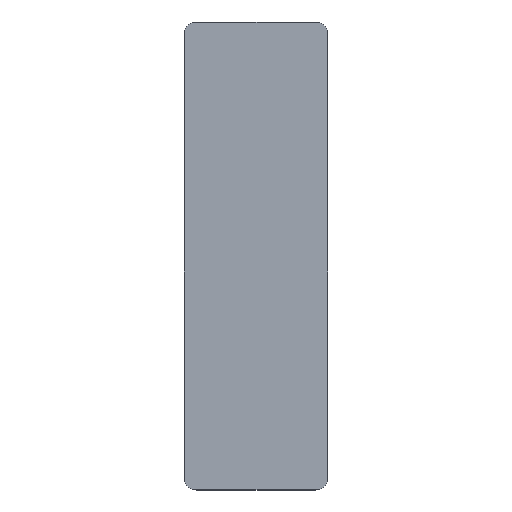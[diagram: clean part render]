
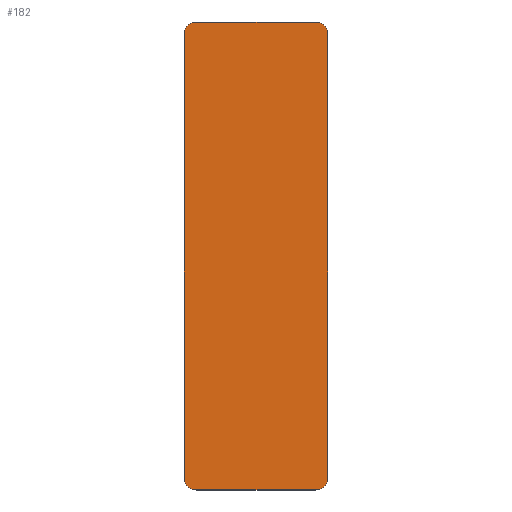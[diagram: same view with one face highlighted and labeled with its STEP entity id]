
A CAD part, top view. The second image highlights one B-rep face of the part: STEP entity #182.
In plain terms, the highlighted planar face has unit normal (0, 0, 1).
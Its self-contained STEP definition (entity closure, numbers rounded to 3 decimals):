
#16=CIRCLE('',#200,0.7);
#18=CIRCLE('',#204,0.7);
#20=CIRCLE('',#208,0.7);
#22=CIRCLE('',#212,0.7);
#36=FACE_OUTER_BOUND('',#46,.T.);
#46=EDGE_LOOP('',(#159,#160,#161,#162,#163,#164,#165,#166));
#48=LINE('',#275,#64);
#54=LINE('',#290,#70);
#58=LINE('',#302,#74);
#61=LINE('',#313,#77);
#64=VECTOR('',#220,1.);
#70=VECTOR('',#234,1.);
#74=VECTOR('',#246,1.);
#77=VECTOR('',#257,1.);
#80=VERTEX_POINT('',#272);
#81=VERTEX_POINT('',#274);
#84=VERTEX_POINT('',#282);
#86=VERTEX_POINT('',#288);
#88=VERTEX_POINT('',#294);
#90=VERTEX_POINT('',#300);
#92=VERTEX_POINT('',#306);
#94=VERTEX_POINT('',#311);
#96=EDGE_CURVE('',#80,#81,#48,.T.);
#101=EDGE_CURVE('',#80,#84,#16,.T.);
#104=EDGE_CURVE('',#84,#86,#54,.T.);
#107=EDGE_CURVE('',#86,#88,#18,.T.);
#110=EDGE_CURVE('',#88,#90,#58,.T.);
#113=EDGE_CURVE('',#90,#92,#20,.T.);
#115=EDGE_CURVE('',#94,#92,#61,.T.);
#118=EDGE_CURVE('',#94,#81,#22,.T.);
#159=ORIENTED_EDGE('',*,*,#96,.F.);
#160=ORIENTED_EDGE('',*,*,#101,.T.);
#161=ORIENTED_EDGE('',*,*,#104,.T.);
#162=ORIENTED_EDGE('',*,*,#107,.T.);
#163=ORIENTED_EDGE('',*,*,#110,.T.);
#164=ORIENTED_EDGE('',*,*,#113,.T.);
#165=ORIENTED_EDGE('',*,*,#115,.F.);
#166=ORIENTED_EDGE('',*,*,#118,.T.);
#172=PLANE('',#214);
#182=ADVANCED_FACE('',(#36),#172,.T.);
#200=AXIS2_PLACEMENT_3D('',#284,#228,#229);
#204=AXIS2_PLACEMENT_3D('',#296,#240,#241);
#208=AXIS2_PLACEMENT_3D('',#308,#252,#253);
#212=AXIS2_PLACEMENT_3D('',#317,#263,#264);
#214=AXIS2_PLACEMENT_3D('',#319,#267,#268);
#220=DIRECTION('',(0.,1.,0.));
#228=DIRECTION('center_axis',(0.,0.,1.));
#229=DIRECTION('ref_axis',(1.,0.,0.));
#234=DIRECTION('',(1.,0.,0.));
#240=DIRECTION('center_axis',(0.,0.,1.));
#241=DIRECTION('ref_axis',(1.,0.,0.));
#246=DIRECTION('',(0.,1.,0.));
#252=DIRECTION('center_axis',(0.,0.,1.));
#253=DIRECTION('ref_axis',(1.,0.,0.));
#257=DIRECTION('',(1.,0.,0.));
#263=DIRECTION('center_axis',(0.,0.,1.));
#264=DIRECTION('ref_axis',(1.,0.,0.));
#267=DIRECTION('center_axis',(0.,0.,1.));
#268=DIRECTION('ref_axis',(1.,0.,0.));
#272=CARTESIAN_POINT('',(20.75,32.7,-7.9));
#274=CARTESIAN_POINT('',(20.75,57.3,-7.9));
#275=CARTESIAN_POINT('',(20.75,45.,-7.9));
#282=CARTESIAN_POINT('',(21.45,32.,-7.9));
#284=CARTESIAN_POINT('Origin',(21.45,32.7,-7.9));
#288=CARTESIAN_POINT('',(28.05,32.,-7.9));
#290=CARTESIAN_POINT('',(24.75,32.,-7.9));
#294=CARTESIAN_POINT('',(28.75,32.7,-7.9));
#296=CARTESIAN_POINT('Origin',(28.05,32.7,-7.9));
#300=CARTESIAN_POINT('',(28.75,57.3,-7.9));
#302=CARTESIAN_POINT('',(28.75,45.,-7.9));
#306=CARTESIAN_POINT('',(28.05,58.,-7.9));
#308=CARTESIAN_POINT('Origin',(28.05,57.3,-7.9));
#311=CARTESIAN_POINT('',(21.45,58.,-7.9));
#313=CARTESIAN_POINT('',(24.75,58.,-7.9));
#317=CARTESIAN_POINT('Origin',(21.45,57.3,-7.9));
#319=CARTESIAN_POINT('Origin',(24.75,45.,-7.9));
